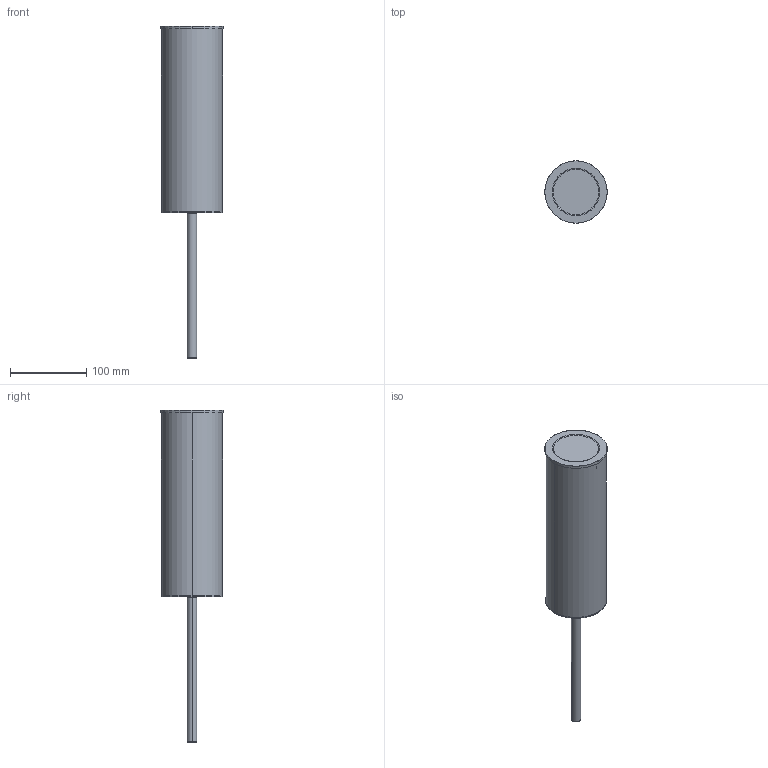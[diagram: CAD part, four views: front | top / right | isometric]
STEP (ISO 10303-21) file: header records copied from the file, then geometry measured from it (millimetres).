
FILE_DESCRIPTION (( 'STEP AP203' ), '1' );
FILE_NAME ('CWS7.STEP', '2024-09-30T09:59:05', ( '' ), ( '' ), 'SwSTEP 2.0', 'SolidWorks 2023', '' );
FILE_SCHEMA (( 'CONFIG_CONTROL_DESIGN' ));
Length unit declared in the file: mil
Products named in the file (1): CWS7
Bounding box: 81.99 x 81.99 x 435.26 mm (x, y, z)
Volume: 448869.3 mm3; surface area: 296687.9 mm2
Topology: 8 solids, 8 shells, 250 faces, 613 edges, 388 vertices
Faces by surface type: cylinder 115, plane 46, cone 40, bspline 29, torus 18, sphere 2
Entity records: 22395 total; most frequent: CARTESIAN_POINT 16921, ORIENTED_EDGE 1220, DIRECTION 964, EDGE_CURVE 610, AXIS2_PLACEMENT_3D 399, VERTEX_POINT 388, EDGE_LOOP 268, B_SPLINE_CURVE_WITH_KNOTS 251
